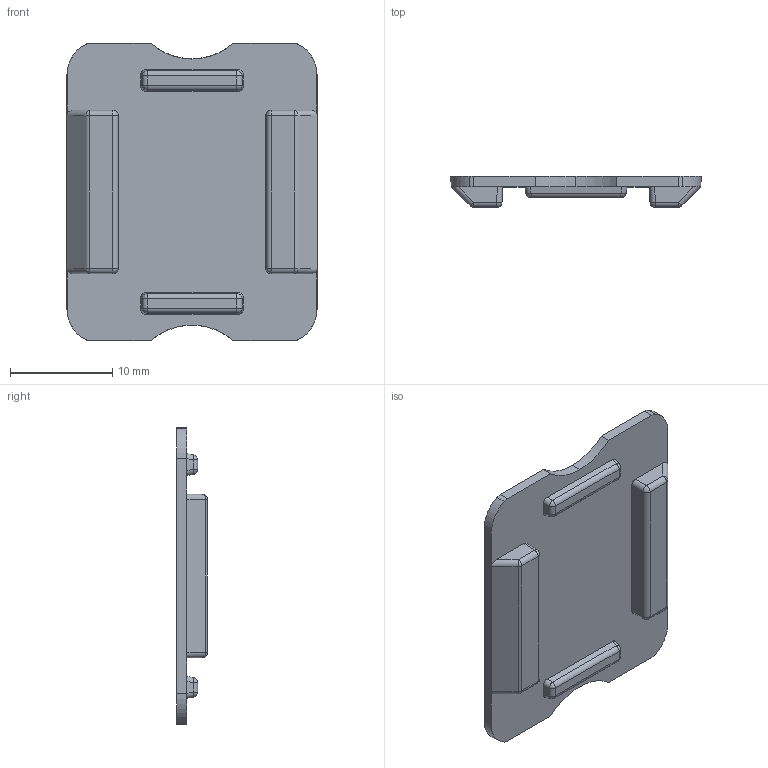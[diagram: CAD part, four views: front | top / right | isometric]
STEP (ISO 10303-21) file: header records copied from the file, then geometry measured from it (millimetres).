
FILE_DESCRIPTION(('Open CASCADE Model'),'2;1');
FILE_NAME('Open CASCADE Shape Model','2026-10-10T06:05:21',('Author'),( 'Open CASCADE'),'Open CASCADE STEP processor 8.0','Open CASCADE 8.0' ,'Unknown');
FILE_SCHEMA(('AUTOMOTIVE_DESIGN { 1 0 10303 214 1 1 1 1 }'));
Length unit declared in the file: millimetre
Products named in the file (1): Open CASCADE STEP translator 8.0 1
Bounding box: 24.45 x 3 x 29.03 mm (x, y, z)
Volume: 958.9 mm3; surface area: 1654.2 mm2
Topology: 1 solids, 1 shells, 99 faces, 227 edges, 134 vertices
Faces by surface type: plane 40, cylinder 32, bspline 16, cone 11
Entity records: 7308 total; most frequent: CARTESIAN_POINT 2863, DIRECTION 803, LINE 481, VECTOR 481, ORIENTED_EDGE 454, PCURVE 454, DEFINITIONAL_REPRESENTATION 454, EDGE_CURVE 227
